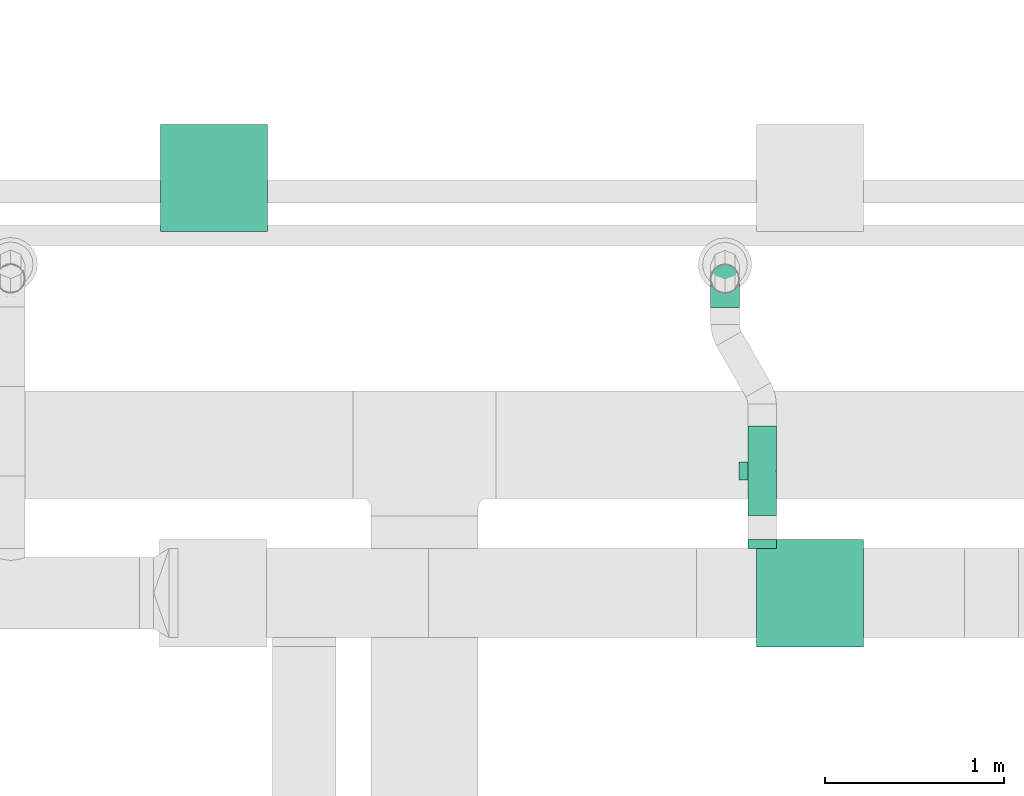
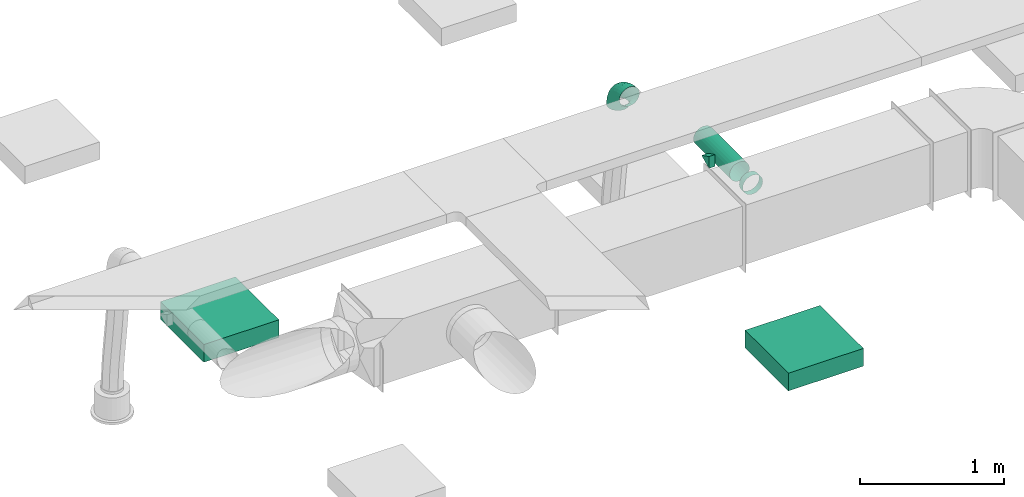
# One storey, part 158 of 374: 2 distribution elements, 1 flow controller, 1 flow fitting, 1 flow segment.
"""IFC2X3 building model written with IfcOpenShell, lengths in metres."""

from ifc_helpers import new_model, si_unit, direction, frame, frame_2d, origin, place, context, subcontext, project, spatial, rectangle, extrude, open_shell, surface_model, source, transform, mapped, element, save


model = new_model("IFC2X3")

# Units and contexts
model_context = context("Model", 3, precision=1e-05, world=origin(), true_north=direction((-0.4480736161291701, 0.8939966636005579)))
body_context = subcontext(model_context, "Body", "Model", "MODEL_VIEW")
ifc_project = project(units=[si_unit("LENGTHUNIT", "METRE"), si_unit("AREAUNIT", "SQUARE_METRE"), si_unit("VOLUMEUNIT", "CUBIC_METRE"), si_unit("PLANEANGLEUNIT", "RADIAN"), si_unit("THERMODYNAMICTEMPERATUREUNIT", "KELVIN"), si_unit("MASSUNIT", "GRAM", prefix="KILO"), si_unit("TIMEUNIT", "SECOND")], contexts=[model_context])

# Site, building, storey
site_placement = place(None, origin())
site = spatial("IfcSite", under=ifc_project, at=site_placement, Name="Site 1", CompositionType="ELEMENT")
building_placement = place(site_placement, origin())
building = spatial("IfcBuilding", under=site, at=building_placement, Name="Undefined", CompositionType="ELEMENT")
storey_placement = place(building_placement, origin())
storey = spatial("IfcBuildingStorey", under=building, at=storey_placement, Name="Rez de chauss\x8ee", CompositionType="ELEMENT", Elevation=0.0)

# Flow fitting
shared_shape_1 = source(origin(), body_context, "Body", "SurfaceModel", [
    surface_model("IfcFaceBasedSurfaceModel", [(0.06265257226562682, -8.8817842e-16, 0.0), (0.062296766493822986, 0.02088115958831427, -7.105427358e-15), (0.0003558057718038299, 0.020881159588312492, 7.105427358e-15), (0.0, 0.0, 0.0), (-0.059474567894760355, 0.022956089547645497, -0.015896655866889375), (-0.06051773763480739, 0.002098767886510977, -0.01607928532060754), (-0.11311701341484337, 0.02696454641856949, -0.04660663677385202), (-0.11477645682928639, 0.006153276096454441, -0.04714207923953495), (-0.15691588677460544, 0.0326333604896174, -0.09003710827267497), (-0.15907851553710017, 0.01188721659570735, -0.09107150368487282), (-0.18788636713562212, 0.03957621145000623, -0.14322835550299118), (-0.1904048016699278, 0.01890983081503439, -0.14487384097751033), (-0.2039178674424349, 0.04731995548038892, -0.20255548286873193), (-0.20662048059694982, 0.026742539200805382, -0.20488255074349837), (0.061253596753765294, 0.04103889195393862, -0.0053597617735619), (0.0013989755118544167, 0.04103889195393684, -0.005359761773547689), (-0.05641614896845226, 0.04304393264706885, -0.02072097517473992), (-0.10825177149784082, 0.04691737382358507, -0.050396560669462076), (-0.15057538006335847, 0.05239524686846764, -0.09236417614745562), (-0.18050269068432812, 0.05910424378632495, -0.14376379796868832), (-0.19599420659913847, 0.06658715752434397, -0.20109262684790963), (0.05959415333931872, 0.05909948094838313, -0.01571402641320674), (0.003058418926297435, 0.05909948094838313, -0.01571402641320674), (-0.05155090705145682, 0.06099334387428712, -0.030223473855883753), (-0.10051228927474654, 0.06465200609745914, -0.058253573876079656), (-0.1404890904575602, 0.0698261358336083, -0.09789412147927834), (-0.16875695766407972, 0.0761631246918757, -0.14644367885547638), (-0.18338948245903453, 0.08323111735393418, -0.2005936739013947), (0.057431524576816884, 0.07383212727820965, -0.030357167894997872), (0.005221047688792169, 0.07383212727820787, -0.03035716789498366), (-0.0452104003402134, 0.07558110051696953, -0.04375657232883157), (-0.09042599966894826, 0.07895985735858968, -0.06964223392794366), (-0.12734438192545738, 0.08373814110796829, -0.10625008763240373), (-0.15344962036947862, 0.08959031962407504, -0.15108536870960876), (-0.16696268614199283, 0.0961175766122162, -0.20109262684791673), (0.054913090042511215, 0.0842328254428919, -0.048291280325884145), (0.007739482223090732, 0.08423282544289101, -0.04829128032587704), (-0.037826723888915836, 0.08581307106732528, -0.06039801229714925), (-0.07868026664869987, 0.08886587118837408, -0.08378642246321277), (-0.11203704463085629, 0.09318318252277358, -0.11686262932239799), (-0.13562384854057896, 0.09847078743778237, -0.1573725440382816), (-0.14783327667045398, 0.10436834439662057, -0.20255548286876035), (0.05221047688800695, 0.0895927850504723, -0.06829418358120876), (0.010442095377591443, 0.08959278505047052, -0.06829418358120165), (-0.029903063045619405, 0.09099196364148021, -0.07901370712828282), (-0.06607554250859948, 0.09369496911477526, -0.0997222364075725), (-0.0956102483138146, 0.0975175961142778, -0.12900851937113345), (-0.11649443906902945, 0.10219933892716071, -0.16487674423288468), (-0.12730489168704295, 0.1074211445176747, -0.2048825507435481), (0.04950786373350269, 0.08954673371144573, -0.08900271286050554), (0.013144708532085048, 0.08954673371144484, -0.08900271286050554), (-0.02197940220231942, 0.09076484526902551, -0.09833502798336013), (-0.05347081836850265, 0.09311805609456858, -0.11636367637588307), (-0.0791834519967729, 0.09644599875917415, -0.14186003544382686), (-0.09736502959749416, 0.10052187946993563, -0.17308657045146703), (-0.10677650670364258, 0.1050679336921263, -0.20791524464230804), (0.04698942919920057, 0.08409780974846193, -0.10900561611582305), (0.015663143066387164, 0.08409780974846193, -0.10900561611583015), (-0.014595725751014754, 0.08514719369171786, -0.11704525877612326), (-0.0417250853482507, 0.0871744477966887, -0.13257665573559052), (-0.06387611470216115, 0.09004141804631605, -0.15454136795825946), (-0.07953925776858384, 0.09355272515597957, -0.1814425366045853), (-0.08764709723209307, 0.09746907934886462, -0.21144689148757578), (0.04482680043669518, 0.0736173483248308, -0.12693972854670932), (0.017825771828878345, 0.0736173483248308, -0.12693972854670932), (-0.008255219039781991, 0.07452184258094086, -0.13386932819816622), (-0.03163879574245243, 0.0762691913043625, -0.14725628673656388), (-0.050731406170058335, 0.07874031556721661, -0.1661883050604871), (-0.06423192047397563, 0.08176681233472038, -0.18937519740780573), (-0.07122030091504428, 0.08514243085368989, -0.21523681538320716), (0.04316735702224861, 0.058819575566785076, -0.14158287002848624), (0.019485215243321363, 0.058819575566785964, -0.14158287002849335), (-0.0033899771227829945, 0.05961289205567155, -0.14766070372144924), (-0.02389931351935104, 0.06114546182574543, -0.15940217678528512), (-0.04064511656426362, 0.06331284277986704, -0.17600712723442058), (-0.052486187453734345, 0.06596733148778, -0.19634395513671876), (-0.05861557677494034, 0.06892802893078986, -0.2190267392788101), (0.04212418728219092, 0.040712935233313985, -0.15193713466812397), (0.020528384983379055, 0.040712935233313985, -0.15193713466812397), (-0.0003315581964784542, 0.041436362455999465, -0.15747952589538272), (-0.019034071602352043, 0.04283391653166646, -0.16818660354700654), (-0.03430460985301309, 0.04481035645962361, -0.1833286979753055), (-0.04510251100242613, 0.047230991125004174, -0.20187390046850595), (-0.05069191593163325, 0.04993085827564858, -0.22255838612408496), (0.04176838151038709, 0.02053136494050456, -0.15729689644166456), (0.020884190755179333, 0.02053136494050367, -0.15729689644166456), (0.0007116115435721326, 0.021230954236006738, -0.16265665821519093), (-0.017374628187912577, 0.022582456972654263, -0.17301092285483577), (-0.03214198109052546, 0.024493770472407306, -0.1876540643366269), (-0.042584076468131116, 0.026834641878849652, -0.20558817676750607), (-0.04798930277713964, 0.02944554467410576, -0.22559108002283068), (0.04212418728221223, -0.000349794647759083, -0.15729689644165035), (0.020528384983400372, -0.000349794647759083, -0.15729689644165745), (-0.0003315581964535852, 0.00037363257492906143, -0.1628392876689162), (-0.019034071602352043, 0.0017711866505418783, -0.17354636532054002), (-0.03430460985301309, 0.0037476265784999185, -0.18868845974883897), (-0.04510251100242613, 0.00616826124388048, -0.20723366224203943), (-0.05069191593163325, 0.008868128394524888, -0.22791814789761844), (0.04316735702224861, -0.020507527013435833, -0.15193713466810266), (0.019485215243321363, -0.020507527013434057, -0.15193713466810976), (-0.0033899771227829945, -0.019714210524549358, -0.15801496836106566), (-0.02389931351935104, -0.01818164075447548, -0.16975644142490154), (-0.04064511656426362, -0.01601425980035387, -0.186361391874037), (-0.052486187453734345, -0.013359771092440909, -0.20669821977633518), (-0.05861557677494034, -0.010399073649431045, -0.22938100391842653), (0.04482680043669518, -0.03856811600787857, -0.1415828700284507), (0.017825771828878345, -0.03856811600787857, -0.1415828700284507), (-0.008255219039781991, -0.03766362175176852, -0.1485124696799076), (-0.03163879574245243, -0.03591627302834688, -0.16189942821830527), (-0.050731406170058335, -0.03344514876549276, -0.1808314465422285), (-0.06423192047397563, -0.030418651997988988, -0.20401833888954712), (-0.07122030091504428, -0.027043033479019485, -0.22987995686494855), (0.04698942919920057, -0.05330076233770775, -0.12693972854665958), (0.015663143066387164, -0.05330076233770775, -0.12693972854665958), (-0.014595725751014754, -0.05225137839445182, -0.1349793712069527), (-0.0417250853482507, -0.05022412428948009, -0.15051076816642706), (-0.06387611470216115, -0.047357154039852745, -0.172475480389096), (-0.07953925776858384, -0.043845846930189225, -0.19937664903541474), (-0.08764709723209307, -0.03992949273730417, -0.2293810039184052), (0.04950786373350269, -0.06370146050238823, -0.10900561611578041), (0.013144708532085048, -0.06370146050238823, -0.10900561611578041), (-0.02197940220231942, -0.06248334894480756, -0.11833793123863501), (-0.05347081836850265, -0.06013013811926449, -0.13636657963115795), (-0.0791834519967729, -0.05680219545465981, -0.16186293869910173), (-0.09736502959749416, -0.05272631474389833, -0.1930894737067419), (-0.10677650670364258, -0.04818026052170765, -0.2279181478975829), (0.05221047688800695, -0.06906142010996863, -0.08900271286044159), (0.010442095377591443, -0.06906142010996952, -0.08900271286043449), (-0.029903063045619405, -0.06766224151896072, -0.09972223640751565), (-0.06607554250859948, -0.06495923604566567, -0.12043076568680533), (-0.0956102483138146, -0.06113660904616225, -0.14971704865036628), (-0.11649443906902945, -0.05645486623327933, -0.1855852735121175), (-0.12730489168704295, -0.05123306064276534, -0.22559108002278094), (0.054913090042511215, -0.06901536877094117, -0.06829418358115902), (0.007739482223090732, -0.06901536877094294, -0.06829418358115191), (-0.037826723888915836, -0.06743512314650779, -0.08040091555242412), (-0.07868026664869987, -0.06438232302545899, -0.10378932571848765), (-0.11203704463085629, -0.06006501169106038, -0.13686553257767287), (-0.13562384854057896, -0.0547774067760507, -0.17737544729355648), (-0.14783327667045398, -0.04887984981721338, -0.22255838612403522), (0.057431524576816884, -0.06356644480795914, -0.0482912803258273), (0.005221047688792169, -0.06356644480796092, -0.04829128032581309), (-0.0452104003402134, -0.061817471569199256, -0.0616906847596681), (-0.09042599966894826, -0.05843871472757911, -0.0875763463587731), (-0.12734438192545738, -0.05366043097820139, -0.12418420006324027), (-0.15344962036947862, -0.04780825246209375, -0.1690194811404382), (-0.16696268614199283, -0.041280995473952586, -0.21902673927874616), (0.05959415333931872, -0.05308598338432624, -0.030357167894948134), (0.003058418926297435, -0.05308598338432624, -0.030357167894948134), (-0.05155090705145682, -0.05119212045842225, -0.04486661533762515), (-0.10051228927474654, -0.04753345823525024, -0.07289671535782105), (-0.1404890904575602, -0.04235932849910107, -0.11253726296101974), (-0.16875695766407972, -0.03602233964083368, -0.16108682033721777), (-0.18338948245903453, -0.02895434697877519, -0.2152368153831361), (0.061253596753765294, -0.03828821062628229, -0.015714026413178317), (0.0013989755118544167, -0.03828821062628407, -0.015714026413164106), (-0.05641614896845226, -0.03628316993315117, -0.031075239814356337), (-0.10825177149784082, -0.03240972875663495, -0.06075082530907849), (-0.15057538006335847, -0.026931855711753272, -0.10271844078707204), (-0.18050269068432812, -0.02022285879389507, -0.15411806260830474), (-0.19599420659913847, -0.012739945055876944, -0.21144689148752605), (0.062296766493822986, -0.020181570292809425, -0.005359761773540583), (0.0003558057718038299, -0.020181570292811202, -0.0053597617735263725), (-0.059474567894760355, -0.018106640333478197, -0.021256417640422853), (-0.11311701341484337, -0.014098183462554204, -0.051966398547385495), (-0.15691588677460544, -0.00842936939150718, -0.09539687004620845), (-0.18788636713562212, -0.0014865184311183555, -0.14858811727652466), (-0.2039178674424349, 0.006257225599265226, -0.2079152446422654)], [open_shell([[[0, 1, 2, 3]], [[3, 2, 4, 5]], [[5, 4, 6, 7]], [[7, 6, 8, 9]], [[9, 8, 10, 11]], [[11, 10, 12, 13]], [[1, 14, 15, 2]], [[2, 15, 16, 4]], [[4, 16, 17, 6]], [[6, 17, 18, 8]], [[8, 18, 19, 10]], [[10, 19, 20, 12]], [[14, 21, 22, 15]], [[15, 22, 23, 16]], [[16, 23, 24, 17]], [[17, 24, 25, 18]], [[18, 25, 26, 19]], [[19, 26, 27, 20]], [[21, 28, 29, 22]], [[22, 29, 30, 23]], [[23, 30, 31, 24]], [[24, 31, 32, 25]], [[25, 32, 33, 26]], [[26, 33, 34, 27]], [[28, 35, 36, 29]], [[29, 36, 37, 30]], [[30, 37, 38, 31]], [[31, 38, 39, 32]], [[32, 39, 40, 33]], [[33, 40, 41, 34]], [[35, 42, 43, 36]], [[36, 43, 44, 37]], [[37, 44, 45, 38]], [[38, 45, 46, 39]], [[39, 46, 47, 40]], [[40, 47, 48, 41]], [[42, 49, 50, 43]], [[43, 50, 51, 44]], [[44, 51, 52, 45]], [[45, 52, 53, 46]], [[46, 53, 54, 47]], [[47, 54, 55, 48]], [[49, 56, 57, 50]], [[50, 57, 58, 51]], [[51, 58, 59, 52]], [[52, 59, 60, 53]], [[53, 60, 61, 54]], [[54, 61, 62, 55]], [[56, 63, 64, 57]], [[57, 64, 65, 58]], [[58, 65, 66, 59]], [[59, 66, 67, 60]], [[60, 67, 68, 61]], [[61, 68, 69, 62]], [[63, 70, 71, 64]], [[64, 71, 72, 65]], [[65, 72, 73, 66]], [[66, 73, 74, 67]], [[67, 74, 75, 68]], [[68, 75, 76, 69]], [[70, 77, 78, 71]], [[71, 78, 79, 72]], [[72, 79, 80, 73]], [[73, 80, 81, 74]], [[74, 81, 82, 75]], [[75, 82, 83, 76]], [[77, 84, 85, 78]], [[78, 85, 86, 79]], [[79, 86, 87, 80]], [[80, 87, 88, 81]], [[81, 88, 89, 82]], [[82, 89, 90, 83]], [[84, 91, 92, 85]], [[85, 92, 93, 86]], [[86, 93, 94, 87]], [[87, 94, 95, 88]], [[88, 95, 96, 89]], [[89, 96, 97, 90]], [[91, 98, 99, 92]], [[92, 99, 100, 93]], [[93, 100, 101, 94]], [[94, 101, 102, 95]], [[95, 102, 103, 96]], [[96, 103, 104, 97]], [[98, 105, 106, 99]], [[99, 106, 107, 100]], [[100, 107, 108, 101]], [[101, 108, 109, 102]], [[102, 109, 110, 103]], [[103, 110, 111, 104]], [[105, 112, 113, 106]], [[106, 113, 114, 107]], [[107, 114, 115, 108]], [[108, 115, 116, 109]], [[109, 116, 117, 110]], [[110, 117, 118, 111]], [[112, 119, 120, 113]], [[113, 120, 121, 114]], [[114, 121, 122, 115]], [[115, 122, 123, 116]], [[116, 123, 124, 117]], [[117, 124, 125, 118]], [[119, 126, 127, 120]], [[120, 127, 128, 121]], [[121, 128, 129, 122]], [[122, 129, 130, 123]], [[123, 130, 131, 124]], [[124, 131, 132, 125]], [[126, 133, 134, 127]], [[127, 134, 135, 128]], [[128, 135, 136, 129]], [[129, 136, 137, 130]], [[130, 137, 138, 131]], [[131, 138, 139, 132]], [[133, 140, 141, 134]], [[134, 141, 142, 135]], [[135, 142, 143, 136]], [[136, 143, 144, 137]], [[137, 144, 145, 138]], [[138, 145, 146, 139]], [[140, 147, 148, 141]], [[141, 148, 149, 142]], [[142, 149, 150, 143]], [[143, 150, 151, 144]], [[144, 151, 152, 145]], [[145, 152, 153, 146]], [[147, 154, 155, 148]], [[148, 155, 156, 149]], [[149, 156, 157, 150]], [[150, 157, 158, 151]], [[151, 158, 159, 152]], [[152, 159, 160, 153]], [[154, 161, 162, 155]], [[155, 162, 163, 156]], [[156, 163, 164, 157]], [[157, 164, 165, 158]], [[158, 165, 166, 159]], [[159, 166, 167, 160]], [[161, 0, 3, 162]], [[162, 3, 5, 163]], [[163, 5, 7, 164]], [[164, 7, 9, 165]], [[165, 9, 11, 166]], [[166, 11, 13, 167]]])]),
])
flow_fitting_placement = place(storey_placement, origin())
element("IfcFlowFitting", 1, at=flow_fitting_placement, inside=storey, Name="Coude", ObjectType="Coude", context=body_context, shape_type="MappedRepresentation", body=[
    mapped(shared_shape_1, transform((48.29270755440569, 16.94411754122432, 3.7021165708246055), x_axis=(0.0, 0.13052619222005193, -0.9914448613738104), y_axis=(-0.9915887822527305, -0.12832103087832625, -0.016893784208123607), z_axis=(-0.12942830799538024, 0.9831056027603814, 0.12942830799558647))),
])

# Flow segment
shared_shape_2 = source(origin(), body_context, "Body", "SurfaceModel", [
    surface_model("IfcFaceBasedSurfaceModel", [(0.0, 0.020884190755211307, 0.0), (0.0, 0.0, 0.0), (0.05000000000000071, 0.0, 0.0), (0.05000000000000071, 0.020884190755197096, 1.776356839e-15), (0.0, -0.020172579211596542, -0.005405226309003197), (0.05000000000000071, -0.020172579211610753, -0.005405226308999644), (0.0, -0.03825881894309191, -0.015847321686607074), (0.05000000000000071, -0.038258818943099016, -0.015847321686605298), (0.0, -0.05302617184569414, -0.0306146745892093), (0.05000000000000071, -0.05302617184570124, -0.030614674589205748), (0.0, -0.06346826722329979, -0.04870091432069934), (0.05000000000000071, -0.0634682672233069, -0.04870091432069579), (0.0, -0.06887349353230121, -0.06887349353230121), (0.05000000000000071, -0.06887349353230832, -0.06887349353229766), (0.0, -0.06887349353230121, -0.08975768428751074), (0.05000000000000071, -0.06887349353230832, -0.08975768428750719), (0.0, -0.06346826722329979, -0.10993026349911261), (0.05000000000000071, -0.0634682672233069, -0.10993026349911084), (0.0, -0.05302617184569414, -0.12801650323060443), (0.05000000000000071, -0.05302617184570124, -0.12801650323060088), (0.0, -0.038258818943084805, -0.14278385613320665), (0.05000000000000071, -0.03825881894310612, -0.14278385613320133), (0.0, -0.020172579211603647, -0.15322595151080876), (0.05000000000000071, -0.020172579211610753, -0.15322595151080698), (0.0, 7.105427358e-15, -0.15863117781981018), (0.05000000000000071, -1.4210854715e-14, -0.1586311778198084), (0.0, 0.020884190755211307, -0.15863117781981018), (0.05000000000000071, 0.020884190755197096, -0.15863117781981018), (0.0, 0.04105676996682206, -0.15322595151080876), (0.05000000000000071, 0.041056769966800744, -0.15322595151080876), (0.0, 0.05914300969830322, -0.1427838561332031), (0.05000000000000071, 0.05914300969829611, -0.14278385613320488), (0.0, 0.07391036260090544, -0.12801650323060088), (0.05000000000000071, 0.07391036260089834, -0.12801650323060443), (0.0, 0.0843524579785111, -0.10993026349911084), (0.05000000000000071, 0.08435245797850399, -0.10993026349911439), (0.0, 0.08975768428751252, -0.08975768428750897), (0.05000000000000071, 0.08975768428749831, -0.08975768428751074), (0.0, 0.08975768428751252, -0.06887349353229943), (0.05000000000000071, 0.08975768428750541, -0.06887349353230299), (0.0, 0.0843524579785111, -0.048700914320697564), (0.05000000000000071, 0.08435245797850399, -0.04870091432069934), (0.0, 0.07391036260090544, -0.030614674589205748), (0.05000000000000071, 0.07391036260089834, -0.0306146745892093), (0.0, 0.05914300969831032, -0.015847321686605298), (0.05000000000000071, 0.05914300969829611, -0.015847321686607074), (0.0, 0.04105676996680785, -0.005405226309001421), (0.05000000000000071, 0.04105676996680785, -0.005405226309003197)], [open_shell([[[0, 1, 2, 3]], [[1, 4, 5, 2]], [[4, 6, 7, 5]], [[6, 8, 9, 7]], [[8, 10, 11, 9]], [[10, 12, 13, 11]], [[12, 14, 15, 13]], [[14, 16, 17, 15]], [[16, 18, 19, 17]], [[18, 20, 21, 19]], [[20, 22, 23, 21]], [[22, 24, 25, 23]], [[24, 26, 27, 25]], [[26, 28, 29, 27]], [[28, 30, 31, 29]], [[30, 32, 33, 31]], [[32, 34, 35, 33]], [[34, 36, 37, 35]], [[36, 38, 39, 37]], [[38, 40, 41, 39]], [[40, 42, 43, 41]], [[42, 44, 45, 43]], [[44, 46, 47, 45]], [[46, 0, 3, 47]]])]),
])
flow_segment_placement = place(storey_placement, origin())
element("IfcFlowSegment", 2, at=flow_segment_placement, inside=storey, Name="Piquage équerre sur plat", ObjectType="Piquage équerre sur plat", context=body_context, shape_type="MappedRepresentation", body=[
    mapped(shared_shape_2, transform((48.52130786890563, 15.363573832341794, 3.877274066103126), x_axis=(0.0, 1.0, 0.0), y_axis=(-0.9914448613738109, 0.0, 0.1305261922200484), z_axis=(0.1305261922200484, 0.0, 0.9914448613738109))),
])

# Flow controller
shared_shape_3 = source(origin(), body_context, "Body", "SurfaceModel", [
    surface_model("IfcFaceBasedSurfaceModel", [(0.16999999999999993, 0.020884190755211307, -4.4408921e-16), (0.0, 0.020884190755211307, 0.0), (0.0, 0.0, 0.0), (0.1727259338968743, 0.0, -4.4408921e-16), (0.0, -0.020172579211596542, -0.005405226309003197), (0.18071796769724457, -0.020172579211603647, -0.005405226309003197), (0.0, -0.03825881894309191, -0.015847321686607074), (0.19343145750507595, -0.038258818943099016, -0.01584732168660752), (0.0, -0.05302617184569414, -0.0306146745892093), (0.21000000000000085, -0.05302617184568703, -0.0306146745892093), (0.0, -0.06346826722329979, -0.04870091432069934), (0.22929447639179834, -0.06346826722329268, -0.04870091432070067), (0.0, -0.06887349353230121, -0.06887349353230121), (0.25, -0.06887349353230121, -0.06887349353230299), (0.0, -0.06887349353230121, -0.08975768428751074), (0.27070552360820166, -0.0688734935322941, -0.08975768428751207), (0.0, -0.06346826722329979, -0.10993026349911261), (0.2900000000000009, -0.06346826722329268, -0.10993026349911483), (0.0, -0.05302617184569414, -0.12801650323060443), (0.30656854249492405, -0.05302617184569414, -0.12801650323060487), (0.0, -0.038258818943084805, -0.14278385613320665), (0.3192820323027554, -0.038258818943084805, -0.14278385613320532), (0.0, -0.020172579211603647, -0.15322595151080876), (0.3272740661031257, -0.020172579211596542, -0.15322595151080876), (0.0, 7.105427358e-15, -0.15863117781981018), (0.33000000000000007, 7.105427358e-15, -0.15863117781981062), (0.0, 0.020884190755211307, -0.15863117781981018), (0.3272740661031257, 0.020884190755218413, -0.1586311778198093), (0.0, 0.04105676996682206, -0.15322595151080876), (0.3192820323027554, 0.04105676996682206, -0.15322595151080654), (0.0, 0.05914300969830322, -0.1427838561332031), (0.30656854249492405, 0.05914300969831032, -0.14278385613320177), (0.0, 0.07391036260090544, -0.12801650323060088), (0.2900000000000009, 0.07391036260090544, -0.12801650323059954), (0.0, 0.0843524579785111, -0.10993026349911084), (0.27070552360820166, 0.0843524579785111, -0.10993026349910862), (0.0, 0.08975768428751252, -0.08975768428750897), (0.25, 0.08975768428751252, -0.08975768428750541), (0.0, 0.08975768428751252, -0.06887349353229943), (0.22929447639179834, 0.08975768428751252, -0.06887349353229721), (0.0, 0.0843524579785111, -0.048700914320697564), (0.21000000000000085, 0.0843524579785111, -0.04870091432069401), (0.0, 0.07391036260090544, -0.030614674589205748), (0.19343145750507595, 0.07391036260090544, -0.030614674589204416), (0.0, 0.05914300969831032, -0.015847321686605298), (0.18071796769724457, 0.05914300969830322, -0.01584732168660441), (0.0, 0.04105676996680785, -0.005405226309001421), (0.1727259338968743, 0.041056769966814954, -0.005405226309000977), (0.5, 0.020884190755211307, -4.4408921e-16), (0.5, 0.0, 0.0), (0.5, -0.020172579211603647, -0.005405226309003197), (0.5, -0.038258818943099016, -0.01584732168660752), (0.5, -0.05302617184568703, -0.0306146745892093), (0.5, -0.06346826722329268, -0.04870091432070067), (0.5, -0.06887349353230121, -0.06887349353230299), (0.5, -0.0688734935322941, -0.08975768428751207), (0.5, -0.06346826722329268, -0.10993026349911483), (0.5, -0.05302617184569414, -0.12801650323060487), (0.5, -0.038258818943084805, -0.14278385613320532), (0.5, -0.020172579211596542, -0.15322595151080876), (0.5, 7.105427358e-15, -0.15863117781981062), (0.5, 0.020884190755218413, -0.1586311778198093), (0.5, 0.04105676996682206, -0.15322595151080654), (0.5, 0.05914300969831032, -0.14278385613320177), (0.5, 0.07391036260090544, -0.12801650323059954), (0.5, 0.0843524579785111, -0.10993026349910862), (0.5, 0.08975768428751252, -0.08975768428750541), (0.5, 0.08975768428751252, -0.06887349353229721), (0.5, 0.0843524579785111, -0.04870091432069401), (0.5, 0.07391036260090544, -0.030614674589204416), (0.5, 0.05914300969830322, -0.01584732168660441), (0.5, 0.041056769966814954, -0.005405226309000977), (0.25, 0.09080189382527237, -0.0818261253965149), (0.24792944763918, 0.09076631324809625, -0.08209638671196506), (0.24792944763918, -0.06786486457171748, -0.06121219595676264), (0.25, -0.06782928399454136, -0.06094193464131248), (0.24600000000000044, 0.09066199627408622, -0.08288875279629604), (0.24600000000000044, -0.06796918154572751, -0.062004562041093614), (0.2443431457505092, 0.09049605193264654, -0.08414922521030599), (0.2443431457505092, -0.06813512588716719, -0.06326503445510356), (0.24307179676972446, 0.090279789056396, -0.08579190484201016), (0.24307179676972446, -0.06835138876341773, -0.06490771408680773), (0.24227259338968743, 0.09002794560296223, -0.08770484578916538), (0.24227259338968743, -0.0686032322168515, -0.06682065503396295), (0.24200000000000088, 0.08975768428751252, -0.08975768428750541), (0.24200000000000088, -0.06887349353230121, -0.06887349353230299), (0.24227259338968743, 0.0894874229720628, -0.09181052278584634), (0.24227259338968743, -0.06914375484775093, -0.07092633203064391), (0.24307179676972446, 0.08923557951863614, -0.09372346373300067), (0.24307179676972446, -0.06939559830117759, -0.07283927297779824), (0.2443431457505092, 0.0890193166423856, -0.09536614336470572), (0.2443431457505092, -0.06961186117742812, -0.0744819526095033), (0.24600000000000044, 0.08885337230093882, -0.09662661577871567), (0.24600000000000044, -0.06977780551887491, -0.07574242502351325), (0.24792944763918, 0.08874905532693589, -0.09741898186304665), (0.24792944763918, -0.06988212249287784, -0.07653479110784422), (0.25, 0.08871347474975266, -0.09768924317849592), (0.25, -0.06991770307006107, -0.0768050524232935), (0.25207055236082, 0.08874905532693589, -0.09741898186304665), (0.25207055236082, -0.06988212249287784, -0.07653479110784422), (0.25399999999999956, 0.08885337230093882, -0.09662661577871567), (0.25399999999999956, -0.06977780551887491, -0.07574242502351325), (0.2556568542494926, 0.0890193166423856, -0.09536614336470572), (0.2556568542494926, -0.06961186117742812, -0.0744819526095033), (0.2569282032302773, 0.08923557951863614, -0.09372346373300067), (0.2569282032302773, -0.06939559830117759, -0.07283927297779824), (0.25772740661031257, 0.0894874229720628, -0.09181052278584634), (0.25772740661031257, -0.06914375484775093, -0.07092633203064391), (0.2580000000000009, 0.08975768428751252, -0.08975768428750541), (0.2580000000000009, -0.06887349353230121, -0.06887349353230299), (0.25772740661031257, 0.09002794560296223, -0.08770484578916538), (0.25772740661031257, -0.0686032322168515, -0.06682065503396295), (0.2569282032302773, 0.090279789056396, -0.08579190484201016), (0.2569282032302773, -0.06835138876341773, -0.06490771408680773), (0.2556568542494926, 0.09049605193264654, -0.08414922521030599), (0.2556568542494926, -0.06813512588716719, -0.06326503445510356), (0.25399999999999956, 0.09066199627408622, -0.08288875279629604), (0.25399999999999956, -0.06796918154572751, -0.062004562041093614), (0.25207055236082, 0.09076631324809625, -0.08209638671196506), (0.25207055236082, -0.06786486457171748, -0.06121219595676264), (0.3000000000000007, -0.07539980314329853, -0.11844573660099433), (0.3000000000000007, -0.06234718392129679, -0.01930125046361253), (0.3000000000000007, -0.11191942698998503, -0.012774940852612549), (0.3000000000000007, -0.12497204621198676, -0.11191942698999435), (0.20000000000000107, -0.06887349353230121, -0.06887349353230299), (0.20000000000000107, -0.11844573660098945, -0.06234718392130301)], [open_shell([[[0, 1, 2, 3]], [[3, 2, 4, 5]], [[5, 4, 6, 7]], [[7, 6, 8, 9]], [[9, 8, 10, 11]], [[11, 10, 12, 13]], [[13, 12, 14, 15]], [[15, 14, 16, 17]], [[17, 16, 18, 19]], [[19, 18, 20, 21]], [[21, 20, 22, 23]], [[23, 22, 24, 25]], [[25, 24, 26, 27]], [[27, 26, 28, 29]], [[29, 28, 30, 31]], [[31, 30, 32, 33]], [[33, 32, 34, 35]], [[35, 34, 36, 37]], [[37, 36, 38, 39]], [[39, 38, 40, 41]], [[41, 40, 42, 43]], [[43, 42, 44, 45]], [[45, 44, 46, 47]], [[47, 46, 1, 0]], [[48, 0, 3, 49]], [[49, 3, 5, 50]], [[50, 5, 7, 51]], [[51, 7, 9, 52]], [[52, 9, 11, 53]], [[53, 11, 13, 54]], [[54, 13, 15, 55]], [[55, 15, 17, 56]], [[56, 17, 19, 57]], [[57, 19, 21, 58]], [[58, 21, 23, 59]], [[59, 23, 25, 60]], [[60, 25, 27, 61]], [[61, 27, 29, 62]], [[62, 29, 31, 63]], [[63, 31, 33, 64]], [[64, 33, 35, 65]], [[65, 35, 37, 66]], [[66, 37, 39, 67]], [[67, 39, 41, 68]], [[68, 41, 43, 69]], [[69, 43, 45, 70]], [[70, 45, 47, 71]], [[71, 47, 0, 48]], [[72, 73, 74, 75]], [[73, 76, 77, 74]], [[76, 78, 79, 77]], [[78, 80, 81, 79]], [[80, 82, 83, 81]], [[82, 84, 85, 83]], [[84, 86, 87, 85]], [[86, 88, 89, 87]], [[88, 90, 91, 89]], [[90, 92, 93, 91]], [[92, 94, 95, 93]], [[94, 96, 97, 95]], [[96, 98, 99, 97]], [[98, 100, 101, 99]], [[100, 102, 103, 101]], [[102, 104, 105, 103]], [[104, 106, 107, 105]], [[106, 108, 109, 107]], [[108, 110, 111, 109]], [[110, 112, 113, 111]], [[112, 114, 115, 113]], [[114, 116, 117, 115]], [[116, 118, 119, 117]], [[118, 72, 75, 119]], [[37, 73, 72]], [[37, 76, 73]], [[37, 78, 76]], [[37, 80, 78]], [[37, 82, 80]], [[37, 84, 82]], [[37, 86, 84]], [[37, 88, 86]], [[37, 90, 88]], [[37, 92, 90]], [[37, 94, 92]], [[37, 96, 94]], [[37, 98, 96]], [[37, 100, 98]], [[37, 102, 100]], [[37, 104, 102]], [[37, 106, 104]], [[37, 108, 106]], [[37, 110, 108]], [[37, 112, 110]], [[37, 114, 112]], [[37, 116, 114]], [[37, 118, 116]], [[37, 72, 118]], [[13, 119, 75]], [[13, 117, 119]], [[13, 115, 117]], [[13, 113, 115]], [[13, 111, 113]], [[13, 109, 111]], [[13, 107, 109]], [[13, 105, 107]], [[13, 103, 105]], [[13, 101, 103]], [[13, 99, 101]], [[13, 97, 99]], [[13, 95, 97]], [[13, 93, 95]], [[13, 91, 93]], [[13, 89, 91]], [[13, 87, 89]], [[13, 85, 87]], [[13, 83, 85]], [[13, 81, 83]], [[13, 79, 81]], [[13, 77, 79]], [[13, 74, 77]], [[13, 75, 74]], [[120, 121, 122, 123]], [[121, 124, 125, 122]], [[124, 120, 123, 125]], [[123, 122, 125]], [[124, 121, 120]]])]),
])
flow_controller_placement = place(storey_placement, origin())
element("IfcFlowController", 3, at=flow_controller_placement, inside=storey, Name="Clapet de réglage cylindrique", ObjectType="Clapet de réglage cylindrique", context=body_context, shape_type="MappedRepresentation", body=[
    mapped(shared_shape_3, transform((48.47989682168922, 16.047667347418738, 3.877274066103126), x_axis=(0.0, -1.0, 0.0), y_axis=(0.9914448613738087, 0.0, 0.13052619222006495), z_axis=(-0.13052619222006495, 0.0, 0.9914448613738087))),
])

# Distribution elements
distribution_element_1_placement = place(storey_placement, origin())
element("IfcDistributionElement", 4, at=distribution_element_1_placement, inside=storey, Name="Decken-Rechteckleuchte mit Rahmen AP", ObjectType="Decken-Rechteckleuchte mit Rahmen AP", context=body_context, shape_type="SweptSolid", body=[
    extrude(rectangle(XDim=0.6000000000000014, YDim=0.6000000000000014, at=frame_2d((3.552713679e-15, 0.0), x_axis=(0.0, 1.0))), frame((45.43207885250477, 17.437499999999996, 2.5500000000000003), z_axis=(0.0, 0.0, -1.0), x_axis=(1.0, 0.0, 0.0)), (0.0, 0.0, 1.0), 0.15),
])
distribution_element_2_placement = place(storey_placement, origin())
element("IfcDistributionElement", 5, at=distribution_element_2_placement, inside=storey, Name="Decken-Rechteckleuchte mit Rahmen AP", ObjectType="Decken-Rechteckleuchte mit Rahmen AP", context=body_context, shape_type="SweptSolid", body=[
    extrude(rectangle(XDim=0.6000000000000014, YDim=0.6000000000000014, at=frame_2d((3.552713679e-15, 0.0), x_axis=(0.0, 1.0))), frame((48.76792114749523, 15.1125, 2.5500000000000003), z_axis=(0.0, 0.0, -1.0), x_axis=(1.0, 0.0, 0.0)), (0.0, 0.0, 1.0), 0.15),
])

save(model, "model.ifc")
